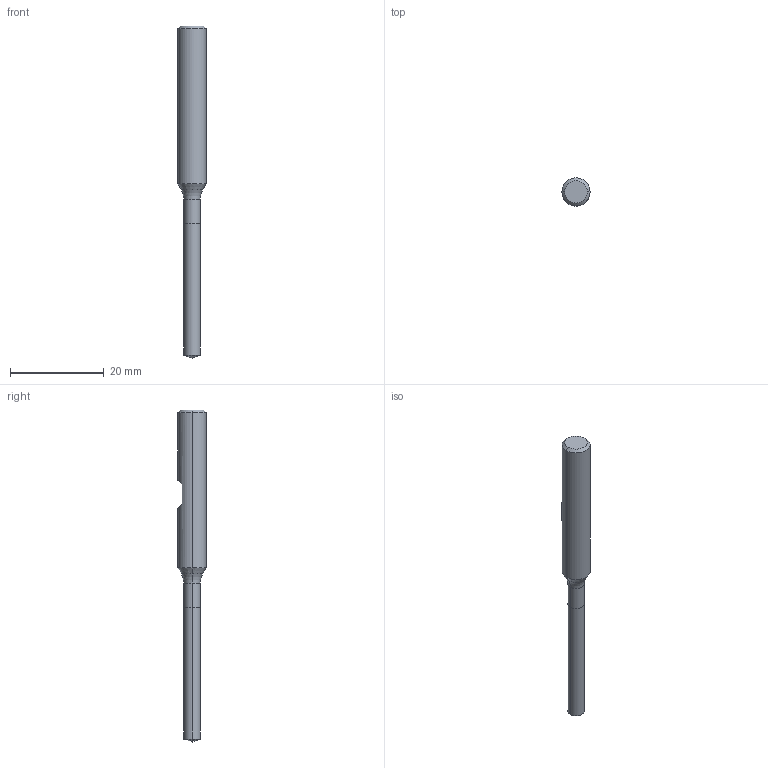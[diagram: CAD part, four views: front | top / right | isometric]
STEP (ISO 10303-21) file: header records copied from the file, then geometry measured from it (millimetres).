
FILE_DESCRIPTION (( 'STEP AP214' ), '1' );
FILE_NAME ('754.035.10_3D-model.step', '2023-08-21T11:38:42', ( '' ), ( '' ), 'SwSTEP 2.0', 'SolidWorks 2020', '' );
FILE_SCHEMA (( 'AUTOMOTIVE_DESIGN' ));
Length unit declared in the file: millimetre
Products named in the file (3): NOCUT-3D^Baugr32; 754.035.10_3D-model; CUT-3D^Baugr32
Assembly tree (2 placements, depth 2):
  754.035.10_3D-model
    CUT-3D^Baugr32
    NOCUT-3D^Baugr32
Bounding box: 6 x 6 x 71 mm (x, y, z)
Volume: 1312.1 mm3; surface area: 1102.9 mm2
Topology: 2 solids, 2 shells, 20 faces, 38 edges, 21 vertices
Faces by surface type: cone 6, cylinder 6, plane 6, torus 2
Entity records: 608 total; most frequent: DIRECTION 108, CARTESIAN_POINT 91, ORIENTED_EDGE 72, AXIS2_PLACEMENT_3D 46, EDGE_CURVE 36, VERTEX_POINT 21, EDGE_LOOP 21, FACE_OUTER_BOUND 20
